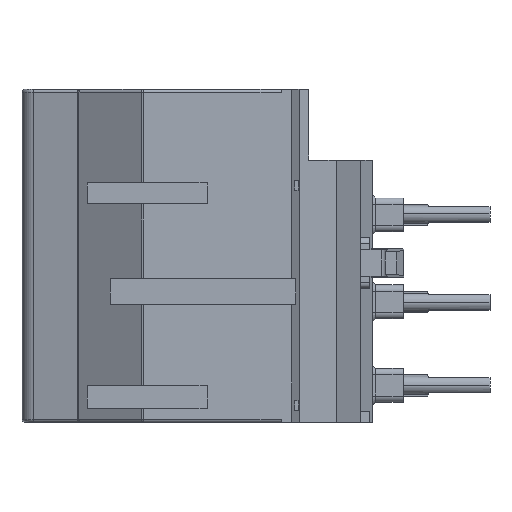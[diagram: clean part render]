
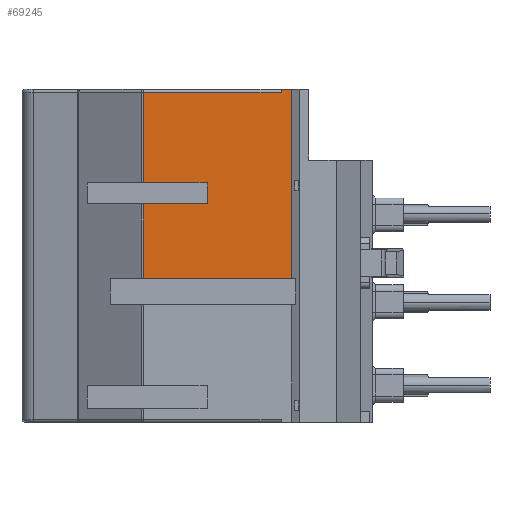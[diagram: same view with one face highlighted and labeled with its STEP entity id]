
A CAD part, front view. The second image highlights one B-rep face of the part: STEP entity #69245.
In plain terms, the highlighted planar face has unit normal (0, -1, 0).
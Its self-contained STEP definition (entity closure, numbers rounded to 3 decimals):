
#772=DIRECTION('',(1.,0.,0.));
#773=VECTOR('',#772,1.7);
#774=CARTESIAN_POINT('',(0.,-74.5,27.));
#775=LINE('',#774,#773);
#2642=DIRECTION('',(1.,0.,0.));
#2643=VECTOR('',#2642,24.058);
#2644=CARTESIAN_POINT('',(-22.358,-74.5,-3.7));
#2645=LINE('',#2644,#2643);
#2655=DIRECTION('',(-1.,0.,0.));
#2656=VECTOR('',#2655,22.358);
#2657=CARTESIAN_POINT('',(0.,-74.5,26.5));
#2658=LINE('',#2657,#2656);
#2659=DIRECTION('',(0.,0.,1.));
#2660=VECTOR('',#2659,0.5);
#2661=CARTESIAN_POINT('',(0.,-74.5,26.5));
#2662=LINE('',#2661,#2660);
#2663=DIRECTION('',(0.,0.,-1.));
#2664=VECTOR('',#2663,12.1);
#2665=CARTESIAN_POINT('',(-22.358,-74.5,8.4));
#2666=LINE('',#2665,#2664);
#2667=DIRECTION('',(1.,0.,0.));
#2668=VECTOR('',#2667,10.358);
#2669=CARTESIAN_POINT('',(-22.358,-74.5,8.4));
#2670=LINE('',#2669,#2668);
#2671=DIRECTION('',(0.,0.,1.));
#2672=VECTOR('',#2671,3.4);
#2673=CARTESIAN_POINT('',(-12.,-74.5,8.4));
#2674=LINE('',#2673,#2672);
#2675=DIRECTION('',(1.,0.,0.));
#2676=VECTOR('',#2675,10.358);
#2677=CARTESIAN_POINT('',(-22.358,-74.5,11.8));
#2678=LINE('',#2677,#2676);
#2679=DIRECTION('',(0.,0.,-1.));
#2680=VECTOR('',#2679,14.7);
#2681=CARTESIAN_POINT('',(-22.358,-74.5,26.5));
#2682=LINE('',#2681,#2680);
#3045=DIRECTION('',(0.,0.,1.));
#3046=VECTOR('',#3045,30.7);
#3047=CARTESIAN_POINT('',(1.7,-74.5,-3.7));
#3048=LINE('',#3047,#3046);
#51794=CARTESIAN_POINT('',(-22.358,-74.5,-3.7));
#51795=VERTEX_POINT('',#51794);
#51984=CARTESIAN_POINT('',(-22.358,-74.5,26.5));
#51985=VERTEX_POINT('',#51984);
#52392=CARTESIAN_POINT('',(-12.,-74.5,8.4));
#52393=CARTESIAN_POINT('',(-12.,-74.5,11.8));
#52394=VERTEX_POINT('',#52392);
#52395=VERTEX_POINT('',#52393);
#52396=CARTESIAN_POINT('',(-22.358,-74.5,11.8));
#52397=VERTEX_POINT('',#52396);
#52398=CARTESIAN_POINT('',(-22.358,-74.5,8.4));
#52399=VERTEX_POINT('',#52398);
#54328=CARTESIAN_POINT('',(0.,-74.5,27.));
#54329=CARTESIAN_POINT('',(1.7,-74.5,27.));
#54330=VERTEX_POINT('',#54328);
#54331=VERTEX_POINT('',#54329);
#54490=CARTESIAN_POINT('',(1.7,-74.5,-3.7));
#54491=VERTEX_POINT('',#54490);
#55178=CARTESIAN_POINT('',(0.,-74.5,26.5));
#55180=VERTEX_POINT('',#55178);
#69220=CARTESIAN_POINT('',(-22.5,-74.5,-27.));
#69221=DIRECTION('',(0.,-1.,0.));
#69222=DIRECTION('',(1.,0.,0.));
#69223=AXIS2_PLACEMENT_3D('',#69220,#69221,#69222);
#69224=PLANE('',#69223);
#69226=ORIENTED_EDGE('',*,*,#69225,.F.);
#69228=ORIENTED_EDGE('',*,*,#69227,.T.);
#69229=ORIENTED_EDGE('',*,*,#66727,.T.);
#69231=ORIENTED_EDGE('',*,*,#69230,.F.);
#69232=ORIENTED_EDGE('',*,*,#69202,.F.);
#69234=ORIENTED_EDGE('',*,*,#69233,.F.);
#69236=ORIENTED_EDGE('',*,*,#69235,.T.);
#69238=ORIENTED_EDGE('',*,*,#69237,.T.);
#69240=ORIENTED_EDGE('',*,*,#69239,.F.);
#69242=ORIENTED_EDGE('',*,*,#69241,.F.);
#69243=EDGE_LOOP('',(#69226,#69228,#69229,#69231,#69232,#69234,#69236,#69238,
#69240,#69242));
#69244=FACE_OUTER_BOUND('',#69243,.F.);
#69245=ADVANCED_FACE('',(#69244),#69224,.T.);
#66727=EDGE_CURVE('',#54330,#54331,#775,.T.);
#69202=EDGE_CURVE('',#51795,#54491,#2645,.T.);
#69225=EDGE_CURVE('',#55180,#51985,#2658,.T.);
#69227=EDGE_CURVE('',#55180,#54330,#2662,.T.);
#69230=EDGE_CURVE('',#54491,#54331,#3048,.T.);
#69233=EDGE_CURVE('',#52399,#51795,#2666,.T.);
#69235=EDGE_CURVE('',#52399,#52394,#2670,.T.);
#69237=EDGE_CURVE('',#52394,#52395,#2674,.T.);
#69239=EDGE_CURVE('',#52397,#52395,#2678,.T.);
#69241=EDGE_CURVE('',#51985,#52397,#2682,.T.);
